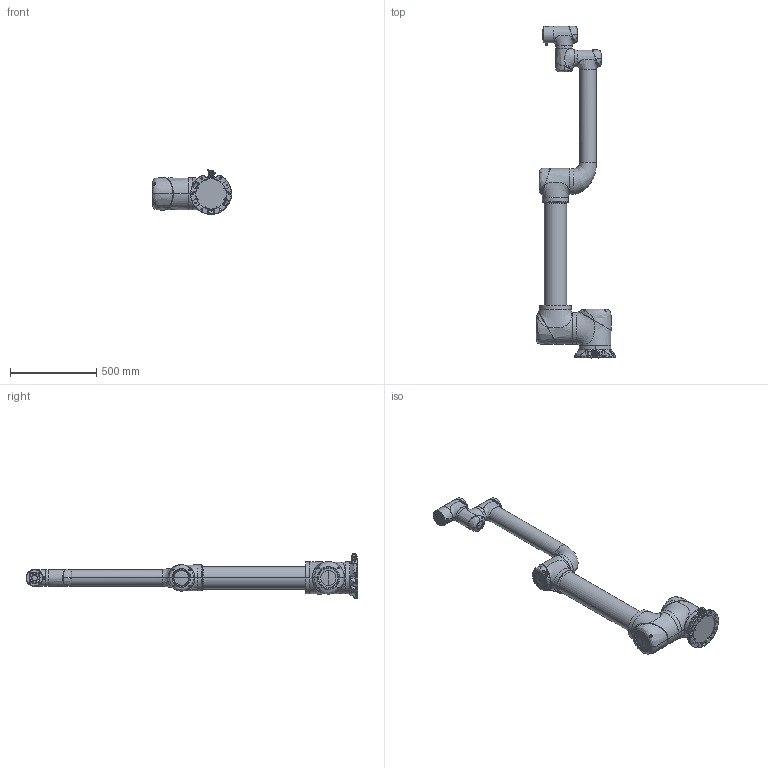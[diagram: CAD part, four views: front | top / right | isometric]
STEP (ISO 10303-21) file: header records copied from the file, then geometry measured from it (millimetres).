
FILE_DESCRIPTION (( 'STEP AP214' ), '1' );
FILE_NAME ('S20-1700_儂迮忒俋楷耀倰-20241112.STEP', '2024-11-12T02:18:23', ( '' ), ( '' ), 'SwSTEP 2.0', 'SolidWorks 2022', '' );
FILE_SCHEMA (( 'AUTOMOTIVE_DESIGN' ));
Length unit declared in the file: millimetre
Products named in the file (52): J4轴模型; 上臂模型; 复件 外壳模型^末端模型; 复件 按钮^末端模型; 复件 带蓝灯^末端模型; J1轴模型; 复件 航插螺母^末端模型; 复件 Part28.1.1.1^复件 带蓝灯_末端模型; 复件 Part22^复件 12B2(2)_复件 按钮_末端模型; 复件 Part30^复件 12B2(2)_复件 按钮_末端模型; 复件 Part30^复件 带蓝灯_末端模型; 底座模型; 复件 Part6^复件 12B2(2)_复件 按钮_末端模型; 末端模型; 复件 Part28.1.1^复件 带蓝灯_末端模型; 复件 Symmetry of Part5^复件 带蓝灯_末端模型; S20-1700_机械手外发模型-20241112; 复件 Part22^复件 带蓝灯_末端模型; 复件 Part7^复件 12B2(2)_复件 按钮_末端模型; 复件 Part7.1^复件 12B2(2)_复件 按钮_末端模型; 复件 Part5.1^复件 12B2(2)_复件 按钮_末端模型; 复件 Symmetry of Part5.1^复件 带蓝灯_末端模型; 复件 Part1^复件 12B2(2)_复件 按钮_末端模型; 复件 Part6^复件 带蓝灯_末端模型; 复件 Part13.1.2^复件 带蓝灯_末端模型; 复件 M5×30内六角圆柱头^末端模型; 零件46^下臂模型; 复件 Part16^复件 12B2(2)_复件 按钮_末端模型; 复件 Part28.1.1^复件 12B2(2)_复件 按钮_末端模型; 复件 复件 底座航插_1^底座模型; 复件 Symmetry of Part5.1^复件 12B2(2)_复件 按钮_末端模型; 复件 Part7^复件 带蓝灯_末端模型; 复件 M12金属按钮开关螺母^复件 带蓝灯_末端模型; 上臂模型_2; 复件 Part1^复件 带蓝灯_末端模型; 下臂模型; 复件 Part13.1^复件 带蓝灯_末端模型; 复件 Part5^复件 12B2(2)_复件 按钮_末端模型; 复件 1419713^末端模型; 复件 M12金属按钮开关螺母^复件 12B2(2)_复件 按钮_末端模型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
Assembly tree (55 placements, depth 5):
  S20-1700_机械手外发模型-20241112
    底座模型
      复件 复件 底座航插_1^底座模型
      底座模型^底座模型
    J4轴模型
    J5轴模型
      J4轴模型
    末端模型
      复件 外壳模型^末端模型
      复件 1419713^末端模型
      复件 航插螺母^末端模型
      复件 按钮^末端模型
        复件 12B2(2)^复件 按钮_末端模型
          复件 Part7^复件 12B2(2)_复件 按钮_末端模型
          复件 Part5^复件 12B2(2)_复件 按钮_末端模型
          复件 Part5.1^复件 12B2(2)_复件 按钮_末端模型
          复件 Symmetry of Part5^复件 12B2(2)_复件 按钮_末端模型
          复件 Symmetry of Part5.1^复件 12B2(2)_复件 按钮_末端模型
          复件 Part13.1.2^复件 12B2(2)_复件 按钮_末端模型
          复件 Part30^复件 12B2(2)_复件 按钮_末端模型
          复件 Part13.1^复件 12B2(2)_复件 按钮_末端模型
          复件 Part6^复件 12B2(2)_复件 按钮_末端模型
          复件 Part28.1.1^复件 12B2(2)_复件 按钮_末端模型
          复件 Part1^复件 12B2(2)_复件 按钮_末端模型
          复件 Part7.1^复件 12B2(2)_复件 按钮_末端模型
          复件 Part16^复件 12B2(2)_复件 按钮_末端模型
          复件 Part22^复件 12B2(2)_复件 按钮_末端模型
          复件 Part28.1.1.1^复件 12B2(2)_复件 按钮_末端模型
          复件 M12金属按钮开关螺母^复件 12B2(2)_复件 按钮_末端模型
      复件 带蓝灯^末端模型
        复件 Part7^复件 带蓝灯_末端模型
        复件 Part5^复件 带蓝灯_末端模型
        复件 Part5.1^复件 带蓝灯_末端模型
        复件 Symmetry of Part5^复件 带蓝灯_末端模型
        复件 Symmetry of Part5.1^复件 带蓝灯_末端模型
        复件 Part13.1.2^复件 带蓝灯_末端模型
        复件 Part30^复件 带蓝灯_末端模型
        复件 Part13.1^复件 带蓝灯_末端模型
        复件 Part6^复件 带蓝灯_末端模型
        复件 Part28.1.1^复件 带蓝灯_末端模型
        复件 Part1^复件 带蓝灯_末端模型
        复件 Part7.1^复件 带蓝灯_末端模型
        复件 Part16^复件 带蓝灯_末端模型
        复件 Part22^复件 带蓝灯_末端模型
        复件 Part28.1.1.1^复件 带蓝灯_末端模型
        复件 M12金属按钮开关螺母^复件 带蓝灯_末端模型
      复件 M5×30内六角圆柱头^末端模型  x4
    下臂模型
      零件46^下臂模型
    上臂模型
      上臂模型_2
    J1轴模型
      J1轴模型
Bounding box: 458.61 x 1920.47 x 259.9 mm (x, y, z)
Volume: 38496846.8 mm3; surface area: 1446000.7 mm2
Topology: 45 solids, 76 shells, 5295 faces, 14015 edges, 8984 vertices
Faces by surface type: plane 2444, bspline 1413, cylinder 991, cone 331, torus 110, sphere 6
Entity records: 417831 total; most frequent: CARTESIAN_POINT 251597, ORIENTED_EDGE 27261, DIRECTION 19078, EDGE_CURVE 13637, VERTEX_POINT 8759, LINE 7026, VECTOR 7026, AXIS2_PLACEMENT_3D 6026
